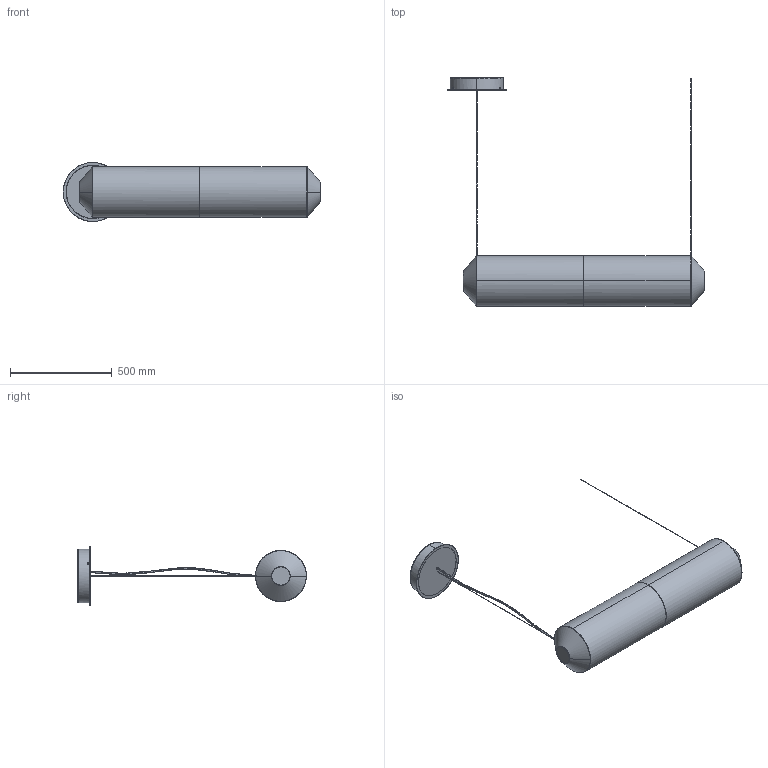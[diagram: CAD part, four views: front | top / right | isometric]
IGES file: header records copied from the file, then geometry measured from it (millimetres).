
Start section: SolidWorks IGES file using analytic representation for surfaces
Global section: file name: C:\SANTACOLE_PDM\Proyectos Catálogo\PROD-P16-018 -- TEKIO\6_Técnico comercial\3D\Tekio Horizntal\Tekio Horizontal P2\Tekio Horizontal P2.IGS; native system: SolidWorks 2019; preprocessor: SolidWorks 2019; author: aina.morell; date: 200407.093702; units: millimetre
Bounding box: 1266.31 x 1125.4 x 290 mm (x, y, z)
Surface area: 2277577 mm2 (no closed solid volume)
Topology: 0 solids, 0 shells, 142 faces, 3125 edges, 3125 vertices
Faces by surface type: bspline 138, revolution 4
